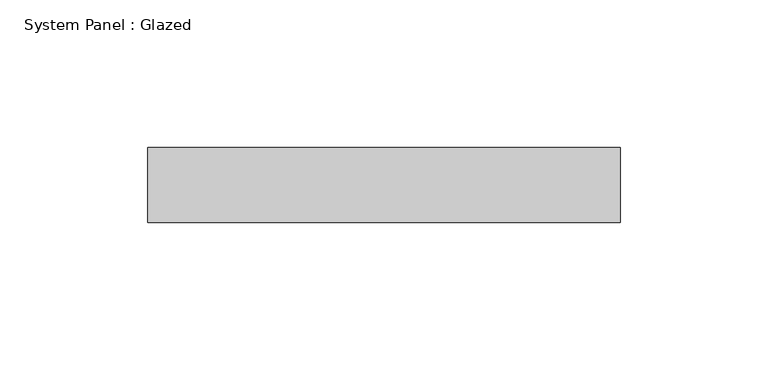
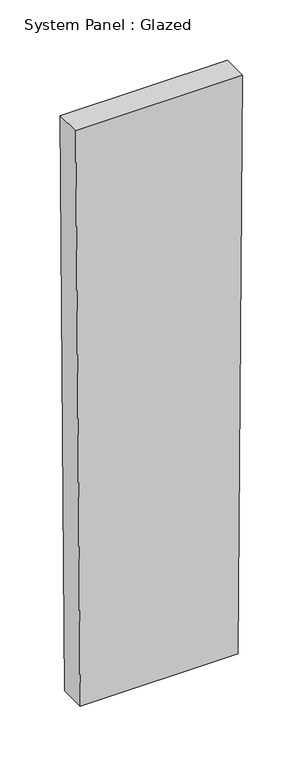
"""IFC4 building model written with IfcOpenShell, lengths in millimetres: plate geometry, System Panel : Glazed."""

from ifc_helpers import new_model, si_unit, frame, origin, place, context, project, spatial, polyline, outline, extrude, source, transform, mapped, element, save


def system_panel_glazed_db05a576(model_context):
    return source(origin(), model_context, "Body", "SweptSolid", [
        extrude(outline(polyline([(0.0, -75.6698455), (0.0, 75.6698455), (584.1823182, 80.1193697), (584.1823182, -80.1193697), (0.0, -75.6698455)])), frame((0.0, 19.05, 0.0), z_axis=(0.0, 1.0, 0.0), x_axis=(0.0, 0.0, 1.0)), (0.0, 0.0, 1.0), 25.4),
    ])


if __name__ == "__main__":
    model = new_model("IFC4")
    model_context = context("Model", 3, world=origin())
    ifc_project = project(units=[si_unit("LENGTHUNIT", "METRE", prefix="MILLI")], contexts=[model_context])
    site = spatial("IfcSite", under=ifc_project)
    building = spatial("IfcBuilding", under=site)
    placement = place(None, origin())
    system_panel_glazed_shape = system_panel_glazed_db05a576(model_context)
    element("IfcPlate", 1, ObjectType="System Panel : Glazed", at=placement, inside=building, context=model_context, shape_type="MappedRepresentation", body=[
        mapped(system_panel_glazed_shape, transform((0.0, 0.0, 0.0), x_axis=(1.0, 0.0, 0.0), y_axis=(0.0, 1.0, 0.0), z_axis=(0.0, 0.0, 1.0))),
    ])
    save(model, "model.ifc")
